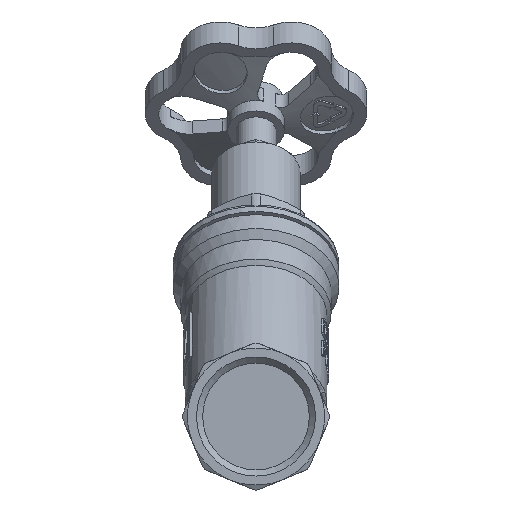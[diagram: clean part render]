
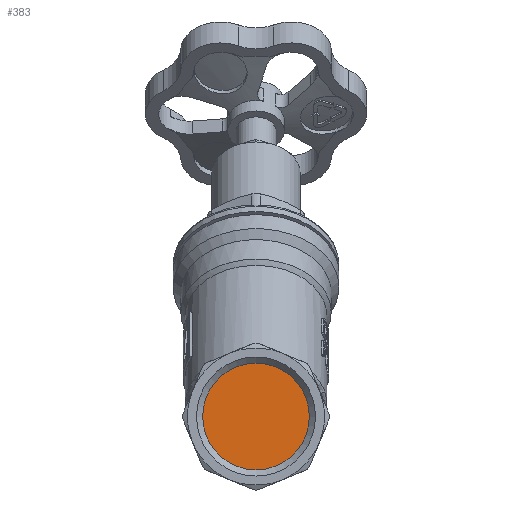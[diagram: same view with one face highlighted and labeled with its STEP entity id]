
A CAD part, front view. The second image highlights one B-rep face of the part: STEP entity #383.
In plain terms, the highlighted planar face has unit normal (0, -1, 0).
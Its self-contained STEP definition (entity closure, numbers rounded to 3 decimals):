
#383=ADVANCED_FACE('',(#2830),#2832,.T.);
#2830=FACE_BOUND('',#2831,.T.);
#2831=EDGE_LOOP('',(#6600));
#2832=PLANE('',#2833);
#2833=AXIS2_PLACEMENT_3D('',#2834,#2835,#2836);
#2834=CARTESIAN_POINT('',(0.,-9.5,0.));
#2835=DIRECTION('',(0.,-1.,0.));
#2836=DIRECTION('',(1.,0.,0.));
#6600=ORIENTED_EDGE('',*,*,#8525,.T.);
#8525=EDGE_CURVE('',#10535,#10535,#10536,.T.);
#10535=VERTEX_POINT('',#22034);
#10536=CIRCLE('',#22035,12.059);
#22034=CARTESIAN_POINT('',(12.059,-9.5,0.));
#22035=AXIS2_PLACEMENT_3D('',#22036,#22037,#22038);
#22036=CARTESIAN_POINT('',(0.,-9.5,0.));
#22037=DIRECTION('',(0.,-1.,0.));
#22038=DIRECTION('',(1.,0.,0.));
